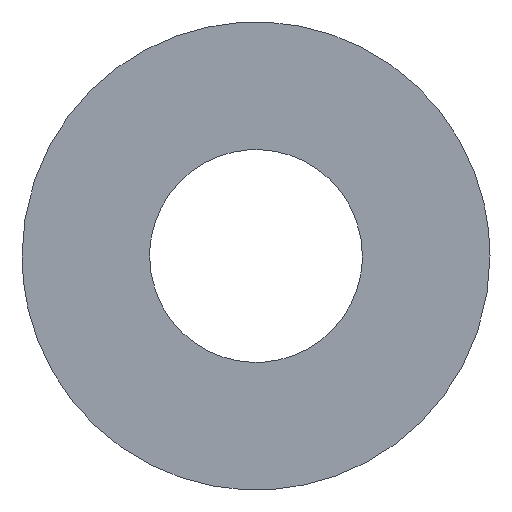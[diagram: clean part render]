
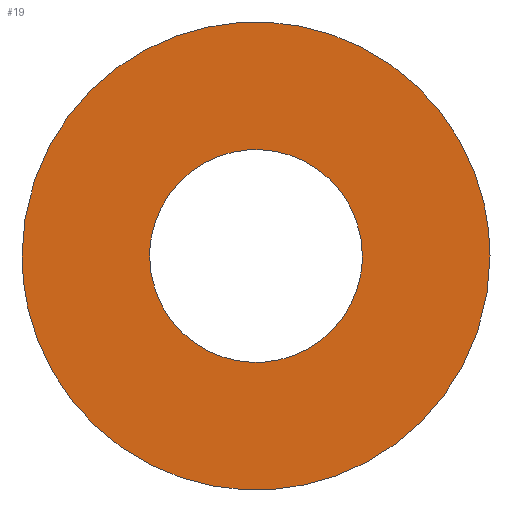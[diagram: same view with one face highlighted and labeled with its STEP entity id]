
A CAD part, left-side view. The second image highlights one B-rep face of the part: STEP entity #19.
In plain terms, the highlighted planar face has unit normal (-1, 0, 0).
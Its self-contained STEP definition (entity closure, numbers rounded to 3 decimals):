
#15=FACE_BOUND('',#32,.T.);
#19=ADVANCED_FACE('',(#25,#15),#93,.T.);
#25=FACE_OUTER_BOUND('',#31,.T.);
#31=EDGE_LOOP('',(#45,#46));
#32=EDGE_LOOP('',(#47,#48));
#45=ORIENTED_EDGE('',*,*,#68,.F.);
#46=ORIENTED_EDGE('',*,*,#61,.F.);
#47=ORIENTED_EDGE('',*,*,#71,.F.);
#48=ORIENTED_EDGE('',*,*,#64,.F.);
#61=EDGE_CURVE('',#85,#89,#73,.T.);
#64=EDGE_CURVE('',#87,#91,#76,.T.);
#68=EDGE_CURVE('',#89,#85,#80,.T.);
#71=EDGE_CURVE('',#91,#87,#83,.T.);
#73=(
BOUNDED_CURVE()
B_SPLINE_CURVE(2,(#179,#180,#181,#182,#183),.UNSPECIFIED.,.F.,.F.)
B_SPLINE_CURVE_WITH_KNOTS((3,2,3),(0.,3.927,7.854),
 .UNSPECIFIED.)
CURVE()
GEOMETRIC_REPRESENTATION_ITEM()
RATIONAL_B_SPLINE_CURVE((1.,0.707,1.,0.707,1.))
REPRESENTATION_ITEM('')
);
#76=(
BOUNDED_CURVE()
B_SPLINE_CURVE(2,(#191,#192,#193,#194,#195),.UNSPECIFIED.,.F.,.F.)
B_SPLINE_CURVE_WITH_KNOTS((3,2,3),(15.708,19.635,23.562),
 .UNSPECIFIED.)
CURVE()
GEOMETRIC_REPRESENTATION_ITEM()
RATIONAL_B_SPLINE_CURVE((1.,0.707,1.,0.707,1.))
REPRESENTATION_ITEM('')
);
#80=(
BOUNDED_CURVE()
B_SPLINE_CURVE(2,(#205,#206,#207,#208,#209),.UNSPECIFIED.,.F.,.F.)
B_SPLINE_CURVE_WITH_KNOTS((3,2,3),(7.854,11.781,15.708),
 .UNSPECIFIED.)
CURVE()
GEOMETRIC_REPRESENTATION_ITEM()
RATIONAL_B_SPLINE_CURVE((1.,0.707,1.,0.707,1.))
REPRESENTATION_ITEM('')
);
#83=(
BOUNDED_CURVE()
B_SPLINE_CURVE(2,(#217,#218,#219,#220,#221),.UNSPECIFIED.,.F.,.F.)
B_SPLINE_CURVE_WITH_KNOTS((3,2,3),(23.562,27.489,31.416),
 .UNSPECIFIED.)
CURVE()
GEOMETRIC_REPRESENTATION_ITEM()
RATIONAL_B_SPLINE_CURVE((1.,0.707,1.,0.707,1.))
REPRESENTATION_ITEM('')
);
#85=VERTEX_POINT('',#171);
#87=VERTEX_POINT('',#173);
#89=VERTEX_POINT('',#175);
#91=VERTEX_POINT('',#177);
#93=PLANE('',#119);
#119=AXIS2_PLACEMENT_3D('',#149,#124,$);
#124=DIRECTION('',(-1.,0.,0.));
#149=CARTESIAN_POINT('',(-143.005,-132.322,377.201));
#171=CARTESIAN_POINT('',(-143.005,-119.947,384.076));
#173=CARTESIAN_POINT('',(-143.005,-122.947,384.076));
#175=CARTESIAN_POINT('',(-143.005,-130.947,384.076));
#177=CARTESIAN_POINT('',(-143.005,-127.947,384.076));
#179=CARTESIAN_POINT('',(-143.005,-119.947,384.076));
#180=CARTESIAN_POINT('',(-143.005,-119.947,389.576));
#181=CARTESIAN_POINT('',(-143.005,-125.447,389.576));
#182=CARTESIAN_POINT('',(-143.005,-130.947,389.576));
#183=CARTESIAN_POINT('',(-143.005,-130.947,384.076));
#191=CARTESIAN_POINT('',(-143.005,-122.947,384.076));
#192=CARTESIAN_POINT('',(-143.005,-122.947,381.576));
#193=CARTESIAN_POINT('',(-143.005,-125.447,381.576));
#194=CARTESIAN_POINT('',(-143.005,-127.947,381.576));
#195=CARTESIAN_POINT('',(-143.005,-127.947,384.076));
#205=CARTESIAN_POINT('',(-143.005,-130.947,384.076));
#206=CARTESIAN_POINT('',(-143.005,-130.947,378.576));
#207=CARTESIAN_POINT('',(-143.005,-125.447,378.576));
#208=CARTESIAN_POINT('',(-143.005,-119.947,378.576));
#209=CARTESIAN_POINT('',(-143.005,-119.947,384.076));
#217=CARTESIAN_POINT('',(-143.005,-127.947,384.076));
#218=CARTESIAN_POINT('',(-143.005,-127.947,386.576));
#219=CARTESIAN_POINT('',(-143.005,-125.447,386.576));
#220=CARTESIAN_POINT('',(-143.005,-122.947,386.576));
#221=CARTESIAN_POINT('',(-143.005,-122.947,384.076));
